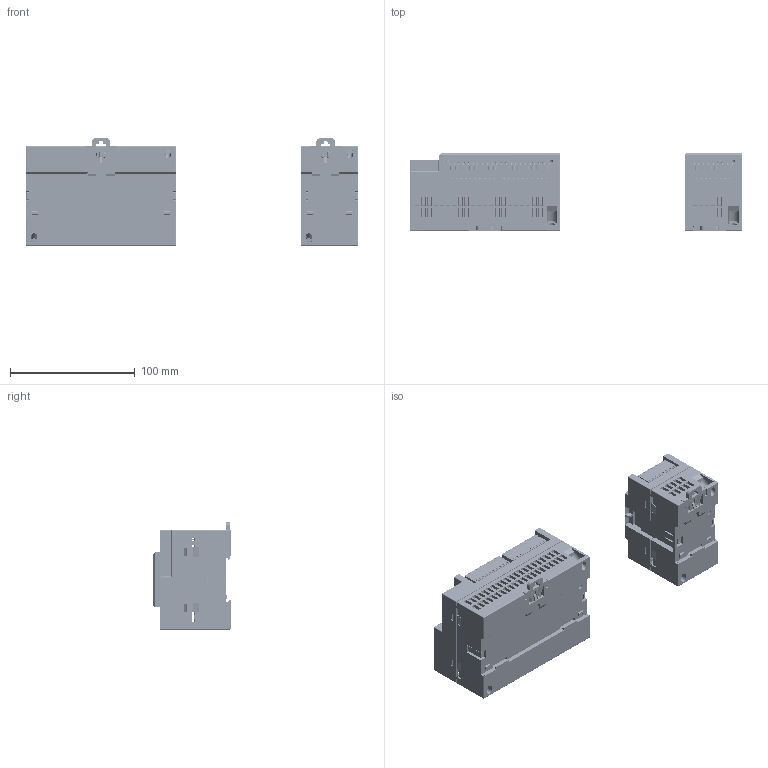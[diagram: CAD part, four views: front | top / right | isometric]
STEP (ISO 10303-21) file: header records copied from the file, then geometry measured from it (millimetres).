
FILE_DESCRIPTION((''),'2;1');
FILE_NAME('PLASTIC_V2_0_20150506_2__ASM_11_ASM','2023-06-30T00:15:50',('Administrator'),('yulong DESIGN'),'CREO PARAMETRIC BY PTC INC, 2021023','CREO PARAMETRIC BY PTC INC, 2021023','');
FILE_SCHEMA(('AUTOMOTIVE_DESIGN { 1 0 10303 214 1 1 1 1 }'));
Products named in the file (19): MSBR-14_1; MSBR-13_1; MSBR-11_1; MSBR-6_1; MSBR-5_1; MSBR-4_2; MSBR-3_1; MSBR-2_1; MSBR-1_1; 15EDGKD-3_81-10P-11-00AH_4; 15EDGKD-3_81-8P-11-00AH_2; R51C1-PN; PIN001_0_1; 24_-400600_1; BOSS-EXTRUDE1_1; 24_-955100_1; HY951180A_0_ASM_1_ASM; HY951180A-ASM_1_ASM_1_ASM; PLASTIC_V2_0_20150506_2__ASM_11_ASM
Assembly tree (28 placements, depth 4):
  PLASTIC_V2_0_20150506_2__ASM_11_ASM
    MSBR-14_1
    MSBR-13_1
    MSBR-11_1
    MSBR-6_1
    MSBR-5_1
    MSBR-4_2
    MSBR-3_1
    MSBR-2_1  x6
    MSBR-1_1
    15EDGKD-3_81-10P-11-00AH_4  x4
    15EDGKD-3_81-8P-11-00AH_2  x2
    R51C1-PN
    HY951180A-ASM_1_ASM_1_ASM  x2
      PIN001_0_1
      HY951180A_0_ASM_1_ASM
        24_-400600_1
        BOSS-EXTRUDE1_1
        24_-955100_1
Bounding box: 266.5 x 62 x 86.3 mm (x, y, z)
Volume: 514371.8 mm3; surface area: 193981.5 mm2
Topology: 27 solids, 213 shells, 16266 faces, 44200 edges, 28653 vertices
Faces by surface type: plane 13821, cylinder 1860, cone 363, sphere 83, torus 74, bspline 53, extrusion 12
Entity records: 341046 total; most frequent: CARTESIAN_POINT 50609, ORIENTED_EDGE 42410, DIRECTION 37524, PRESENTATION_STYLE_ASSIGNMENT 24892, STYLED_ITEM 24713, EDGE_CURVE 21270, CURVE_STYLE 20551, VECTOR 18428
